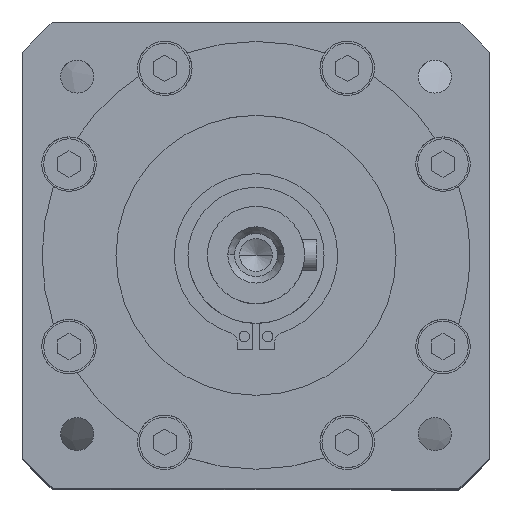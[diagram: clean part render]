
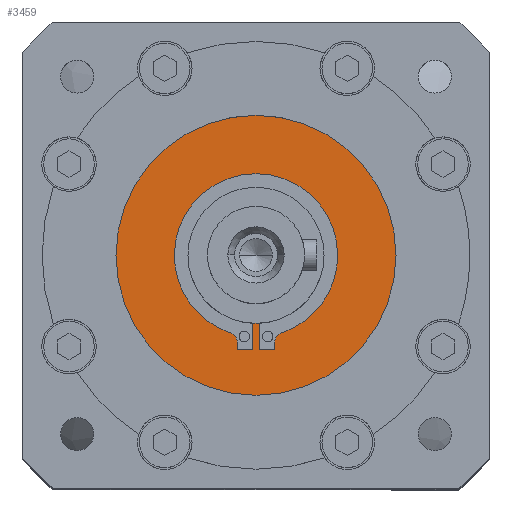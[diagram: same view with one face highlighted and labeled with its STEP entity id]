
A CAD part, top view. The second image highlights one B-rep face of the part: STEP entity #3459.
In plain terms, the highlighted planar face has unit normal (0, 0, 1).
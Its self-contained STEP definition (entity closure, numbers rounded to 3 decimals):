
#954 = CIRCLE ( 'NONE', #1047, 21. ) ;
#1047 = AXIS2_PLACEMENT_3D ( 'NONE', #31461, #8087, #35379 ) ;
#1216 = VERTEX_POINT ( 'NONE', #16632 ) ;
#1325 = LINE ( 'NONE', #10938, #20919 ) ;
#1539 = CARTESIAN_POINT ( 'NONE',  ( 0., 0., -2.7 ) ) ;
#1672 = DIRECTION ( 'NONE',  ( 0., 0., -1. ) ) ;
#1757 = VERTEX_POINT ( 'NONE', #14673 ) ;
#1804 = ORIENTED_EDGE ( 'NONE', *, *, #50299, .F. ) ;
#2650 = AXIS2_PLACEMENT_3D ( 'NONE', #5109, #32443, #9060 ) ;
#2708 = VERTEX_POINT ( 'NONE', #39993 ) ;
#3459 = ADVANCED_FACE ( 'NONE', ( #28247, #27000 ), #36990, .F. ) ;
#3658 = ORIENTED_EDGE ( 'NONE', *, *, #8383, .F. ) ;
#4600 = ORIENTED_EDGE ( 'NONE', *, *, #31391, .F. ) ;
#4819 = CARTESIAN_POINT ( 'NONE',  ( -0.85, 0., -2.7 ) ) ;
#5109 = CARTESIAN_POINT ( 'NONE',  ( 0., 0., -2.7 ) ) ;
#5129 = AXIS2_PLACEMENT_3D ( 'NONE', #30139, #6750, #34044 ) ;
#5256 = ORIENTED_EDGE ( 'NONE', *, *, #24081, .F. ) ;
#5474 = DIRECTION ( 'NONE',  ( 1., 0., 0. ) ) ;
#5616 = CARTESIAN_POINT ( 'NONE',  ( -36., 0., -2.7 ) ) ;
#6218 = VERTEX_POINT ( 'NONE', #11875 ) ;
#6750 = DIRECTION ( 'NONE',  ( 0., 0., 1. ) ) ;
#7175 = ORIENTED_EDGE ( 'NONE', *, *, #8152, .F. ) ;
#7372 = CARTESIAN_POINT ( 'NONE',  ( 0., 0., -2.7 ) ) ;
#8087 = DIRECTION ( 'NONE',  ( 0., 0., 1. ) ) ;
#8152 = EDGE_CURVE ( 'NONE', #24838, #6218, #26774, .T. ) ;
#8268 = AXIS2_PLACEMENT_3D ( 'NONE', #7372, #34667, #11315 ) ;
#8383 = EDGE_CURVE ( 'NONE', #18502, #28054, #36514, .T. ) ;
#8624 = CIRCLE ( 'NONE', #26871, 2.5 ) ;
#8933 = CIRCLE ( 'NONE', #34350, 2.5 ) ;
#9060 = DIRECTION ( 'NONE',  ( -1., 0., 0. ) ) ;
#9407 = CARTESIAN_POINT ( 'NONE',  ( 4.85, 0., -2.7 ) ) ;
#9692 = ORIENTED_EDGE ( 'NONE', *, *, #33655, .F. ) ;
#9856 = CARTESIAN_POINT ( 'NONE',  ( 0.85, 0., -2.7 ) ) ;
#9946 = EDGE_LOOP ( 'NONE', ( #27363, #20842 ) ) ;
#10637 = EDGE_CURVE ( 'NONE', #38677, #22647, #25360, .T. ) ;
#10938 = CARTESIAN_POINT ( 'NONE',  ( 0., -24.279, -2.7 ) ) ;
#11315 = DIRECTION ( 'NONE',  ( -1., 0., 0. ) ) ;
#11875 = CARTESIAN_POINT ( 'NONE',  ( 4.85, -23.779, -2.7 ) ) ;
#12072 = AXIS2_PLACEMENT_3D ( 'NONE', #13835, #41103, #17738 ) ;
#12730 = CARTESIAN_POINT ( 'NONE',  ( 4.35, -24.279, -2.7 ) ) ;
#12936 = DIRECTION ( 'NONE',  ( 0., -1., 0. ) ) ;
#13341 = DIRECTION ( 'NONE',  ( 0., 1., 0. ) ) ;
#13595 = ORIENTED_EDGE ( 'NONE', *, *, #40542, .F. ) ;
#13638 = CARTESIAN_POINT ( 'NONE',  ( 0., 0., -2.7 ) ) ;
#13835 = CARTESIAN_POINT ( 'NONE',  ( 4.35, -23.779, -2.7 ) ) ;
#14673 = CARTESIAN_POINT ( 'NONE',  ( 36., 0., -2.7 ) ) ;
#14870 = DIRECTION ( 'NONE',  ( 1., 0., 0. ) ) ;
#14975 = EDGE_CURVE ( 'NONE', #17997, #2708, #8624, .T. ) ;
#16373 = EDGE_CURVE ( 'NONE', #22647, #26456, #954, .T. ) ;
#16632 = CARTESIAN_POINT ( 'NONE',  ( 0.85, -17.479, -2.7 ) ) ;
#16938 = ORIENTED_EDGE ( 'NONE', *, *, #14975, .F. ) ;
#17381 = CARTESIAN_POINT ( 'NONE',  ( 0.85, -24.279, -2.7 ) ) ;
#17738 = DIRECTION ( 'NONE',  ( -1., 0., 0. ) ) ;
#17841 = ORIENTED_EDGE ( 'NONE', *, *, #10637, .F. ) ;
#17997 = VERTEX_POINT ( 'NONE', #33932 ) ;
#18071 = DIRECTION ( 'NONE',  ( 0., 0., -1. ) ) ;
#18502 = VERTEX_POINT ( 'NONE', #22453 ) ;
#18611 = CARTESIAN_POINT ( 'NONE',  ( 0., 0., -2.7 ) ) ;
#19586 = DIRECTION ( 'NONE',  ( 0., 0., 1. ) ) ;
#20842 = ORIENTED_EDGE ( 'NONE', *, *, #26860, .T. ) ;
#20919 = VECTOR ( 'NONE', #14870, 1000. ) ;
#21666 = LINE ( 'NONE', #9856, #30770 ) ;
#21889 = CARTESIAN_POINT ( 'NONE',  ( -0.85, -17.479, -2.7 ) ) ;
#22453 = CARTESIAN_POINT ( 'NONE',  ( -4.35, -24.279, -2.7 ) ) ;
#22545 = DIRECTION ( 'NONE',  ( -1., 0., 0. ) ) ;
#22647 = VERTEX_POINT ( 'NONE', #34679 ) ;
#23406 = CIRCLE ( 'NONE', #24954, 0.5 ) ;
#24081 = EDGE_CURVE ( 'NONE', #27734, #1216, #49327, .T. ) ;
#24838 = VERTEX_POINT ( 'NONE', #12730 ) ;
#24913 = VECTOR ( 'NONE', #35559, 1000. ) ;
#24954 = AXIS2_PLACEMENT_3D ( 'NONE', #42924, #19586, #46833 ) ;
#25073 = CARTESIAN_POINT ( 'NONE',  ( -7.35, -22.321, -2.7 ) ) ;
#25360 = CIRCLE ( 'NONE', #2650, 21. ) ;
#25384 = DIRECTION ( 'NONE',  ( -1., 0., 0. ) ) ;
#26456 = VERTEX_POINT ( 'NONE', #48472 ) ;
#26662 = ORIENTED_EDGE ( 'NONE', *, *, #49054, .F. ) ;
#26774 = CIRCLE ( 'NONE', #12072, 0.5 ) ;
#26860 = EDGE_CURVE ( 'NONE', #34786, #1757, #40933, .T. ) ;
#26871 = AXIS2_PLACEMENT_3D ( 'NONE', #25073, #1672, #29019 ) ;
#27000 = FACE_OUTER_BOUND ( 'NONE', #9946, .T. ) ;
#27125 = AXIS2_PLACEMENT_3D ( 'NONE', #1539, #28889, #5474 ) ;
#27363 = ORIENTED_EDGE ( 'NONE', *, *, #29289, .T. ) ;
#27674 = LINE ( 'NONE', #32666, #47178 ) ;
#27734 = VERTEX_POINT ( 'NONE', #21889 ) ;
#28054 = VERTEX_POINT ( 'NONE', #43964 ) ;
#28247 = FACE_BOUND ( 'NONE', #32234, .T. ) ;
#28889 = DIRECTION ( 'NONE',  ( 0., 0., 1. ) ) ;
#29019 = DIRECTION ( 'NONE',  ( -1., 0., 0. ) ) ;
#29289 = EDGE_CURVE ( 'NONE', #1757, #34786, #35229, .T. ) ;
#30139 = CARTESIAN_POINT ( 'NONE',  ( 0., 0., -2.7 ) ) ;
#30770 = VECTOR ( 'NONE', #12936, 1000. ) ;
#31391 = EDGE_CURVE ( 'NONE', #45688, #38677, #8933, .T. ) ;
#31461 = CARTESIAN_POINT ( 'NONE',  ( 0., 0., -2.7 ) ) ;
#31509 = VERTEX_POINT ( 'NONE', #45996 ) ;
#32151 = DIRECTION ( 'NONE',  ( 0., 1., 0. ) ) ;
#32234 = EDGE_LOOP ( 'NONE', ( #3658, #9692, #26662, #16938, #34761, #48796, #17841, #4600, #44302, #7175, #35658, #13595, #5256, #1804 ) ) ;
#32443 = DIRECTION ( 'NONE',  ( 0., 0., 1. ) ) ;
#32644 = AXIS2_PLACEMENT_3D ( 'NONE', #13638, #48770, #25384 ) ;
#32666 = CARTESIAN_POINT ( 'NONE',  ( -4.85, 0., -2.7 ) ) ;
#32712 = CARTESIAN_POINT ( 'NONE',  ( 4.85, -22.321, -2.7 ) ) ;
#32959 = CARTESIAN_POINT ( 'NONE',  ( 6.568, -19.946, -2.7 ) ) ;
#33655 = EDGE_CURVE ( 'NONE', #31509, #18502, #23406, .T. ) ;
#33932 = CARTESIAN_POINT ( 'NONE',  ( -6.568, -19.946, -2.7 ) ) ;
#34044 = DIRECTION ( 'NONE',  ( 1., 0., 0. ) ) ;
#34350 = AXIS2_PLACEMENT_3D ( 'NONE', #41410, #18071, #45327 ) ;
#34667 = DIRECTION ( 'NONE',  ( 0., 0., 1. ) ) ;
#34679 = CARTESIAN_POINT ( 'NONE',  ( 21., 0., -2.7 ) ) ;
#34761 = ORIENTED_EDGE ( 'NONE', *, *, #45362, .F. ) ;
#34786 = VERTEX_POINT ( 'NONE', #5616 ) ;
#35229 = CIRCLE ( 'NONE', #27125, 36. ) ;
#35379 = DIRECTION ( 'NONE',  ( -1., 0., 0. ) ) ;
#35559 = DIRECTION ( 'NONE',  ( 1., 0., 0. ) ) ;
#35658 = ORIENTED_EDGE ( 'NONE', *, *, #42220, .F. ) ;
#36514 = LINE ( 'NONE', #39822, #24913 ) ;
#36578 = DIRECTION ( 'NONE',  ( 0., -1., 0. ) ) ;
#36990 = PLANE ( 'NONE',  #32644 ) ;
#38650 = EDGE_CURVE ( 'NONE', #6218, #45688, #44962, .T. ) ;
#38677 = VERTEX_POINT ( 'NONE', #32959 ) ;
#39358 = AXIS2_PLACEMENT_3D ( 'NONE', #18611, #45865, #22545 ) ;
#39822 = CARTESIAN_POINT ( 'NONE',  ( 0., -24.279, -2.7 ) ) ;
#39993 = CARTESIAN_POINT ( 'NONE',  ( -4.85, -22.321, -2.7 ) ) ;
#40390 = LINE ( 'NONE', #4819, #49554 ) ;
#40542 = EDGE_CURVE ( 'NONE', #1216, #43283, #21666, .T. ) ;
#40933 = CIRCLE ( 'NONE', #5129, 36. ) ;
#41103 = DIRECTION ( 'NONE',  ( 0., 0., 1. ) ) ;
#41410 = CARTESIAN_POINT ( 'NONE',  ( 7.35, -22.321, -2.7 ) ) ;
#42220 = EDGE_CURVE ( 'NONE', #43283, #24838, #1325, .T. ) ;
#42462 = CIRCLE ( 'NONE', #8268, 21. ) ;
#42924 = CARTESIAN_POINT ( 'NONE',  ( -4.35, -23.779, -2.7 ) ) ;
#43283 = VERTEX_POINT ( 'NONE', #17381 ) ;
#43733 = VECTOR ( 'NONE', #13341, 1000. ) ;
#43964 = CARTESIAN_POINT ( 'NONE',  ( -0.85, -24.279, -2.7 ) ) ;
#44302 = ORIENTED_EDGE ( 'NONE', *, *, #38650, .F. ) ;
#44962 = LINE ( 'NONE', #9407, #43733 ) ;
#45327 = DIRECTION ( 'NONE',  ( -1., 0., 0. ) ) ;
#45362 = EDGE_CURVE ( 'NONE', #26456, #17997, #42462, .T. ) ;
#45688 = VERTEX_POINT ( 'NONE', #32712 ) ;
#45865 = DIRECTION ( 'NONE',  ( 0., 0., 1. ) ) ;
#45996 = CARTESIAN_POINT ( 'NONE',  ( -4.85, -23.779, -2.7 ) ) ;
#46833 = DIRECTION ( 'NONE',  ( -1., 0., 0. ) ) ;
#47178 = VECTOR ( 'NONE', #36578, 1000. ) ;
#48472 = CARTESIAN_POINT ( 'NONE',  ( -21., 0., -2.7 ) ) ;
#48770 = DIRECTION ( 'NONE',  ( 0., 0., -1. ) ) ;
#48796 = ORIENTED_EDGE ( 'NONE', *, *, #16373, .F. ) ;
#49054 = EDGE_CURVE ( 'NONE', #2708, #31509, #27674, .T. ) ;
#49327 = CIRCLE ( 'NONE', #39358, 17.5 ) ;
#49554 = VECTOR ( 'NONE', #32151, 1000. ) ;
#50299 = EDGE_CURVE ( 'NONE', #28054, #27734, #40390, .T. ) ;
